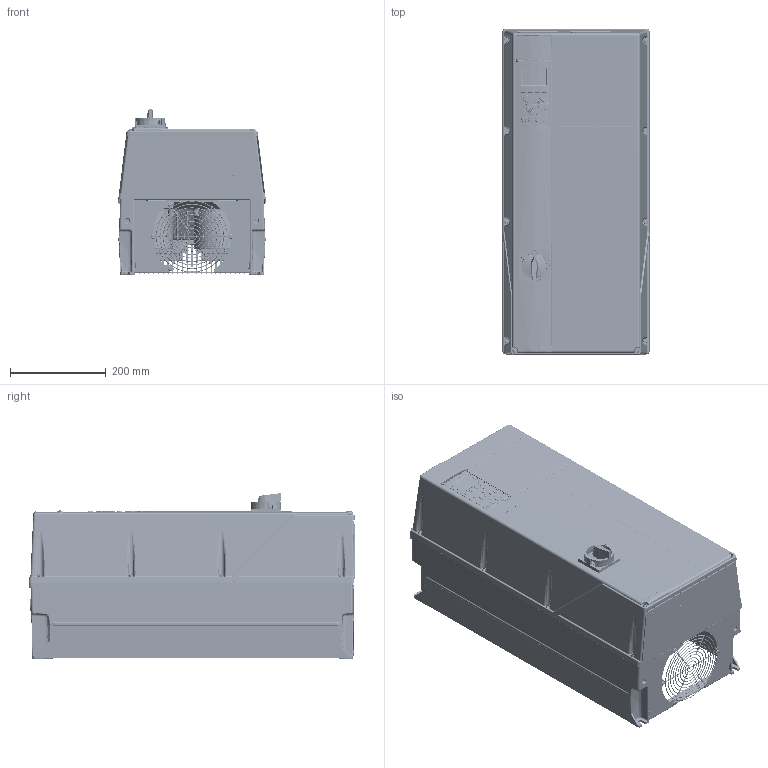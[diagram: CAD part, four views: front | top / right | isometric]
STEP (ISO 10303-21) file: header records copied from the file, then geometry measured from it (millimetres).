
FILE_DESCRIPTION((''),'2;1');
FILE_NAME('DANFOSS-FC200-C1-SWITCH','2011-10-13T',('cstephenkumar'),('Be-Atch INC. 1993'),'PRO/ENGINEER BY PARAMETRIC TECHNOLOGY CORPORATION, 2009360','PRO/ENGINEER BY PARAMETRIC TECHNOLOGY CORPORATION, 2009360','');
FILE_SCHEMA(('AUTOMOTIVE_DESIGN { 1 0 10303 214 1 1 1 1 }'));
Length unit declared in the file: millimetre
Products named in the file (1): DANFOSS-FC200-C1-SWITCH
Bounding box: 307.5 x 681.52 x 345.13 mm (x, y, z)
Volume: 41981575.6 mm3; surface area: 3399486.3 mm2
Topology: 1 solids, 20 shells, 6195 faces, 15597 edges, 9493 vertices
Faces by surface type: cylinder 1939, plane 1797, bspline 1478, cone 487, torus 472, sphere 19, extrusion 3
Entity records: 306220 total; most frequent: CARTESIAN_POINT 168581, ORIENTED_EDGE 31014, DIRECTION 24631, EDGE_CURVE 15507, VERTEX_POINT 9491, AXIS2_PLACEMENT_3D 9055, EDGE_LOOP 6530, VECTOR 6521
